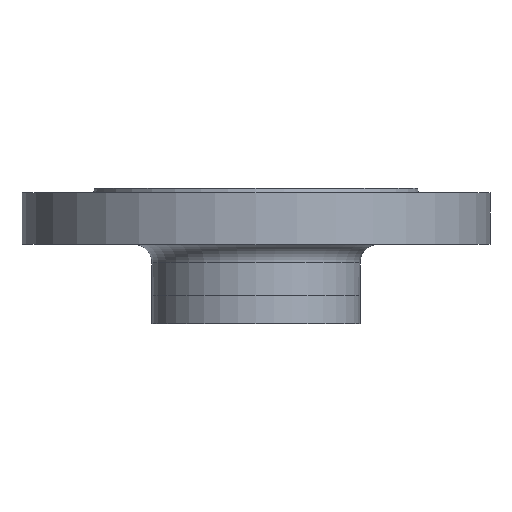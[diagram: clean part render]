
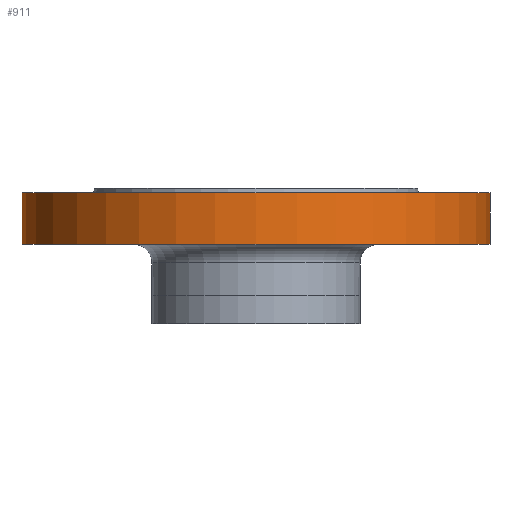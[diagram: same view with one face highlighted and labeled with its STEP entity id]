
A CAD part, front view. The second image highlights one B-rep face of the part: STEP entity #911.
In plain terms, the highlighted cylindrical face has radius 100 mm (diameter 200 mm), a partial arc.
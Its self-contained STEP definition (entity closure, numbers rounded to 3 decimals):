
#41 = CARTESIAN_POINT ( 'NONE',  ( 100., 0., -2. ) ) ;
#50 = CARTESIAN_POINT ( 'NONE',  ( 100., 0., -24. ) ) ;
#60 = CARTESIAN_POINT ( 'NONE',  ( -100., 0., -24. ) ) ;
#164 = DIRECTION ( 'NONE',  ( -1., 0., 0. ) ) ;
#166 = CARTESIAN_POINT ( 'NONE',  ( -100., 0., -2. ) ) ;
#168 = CARTESIAN_POINT ( 'NONE',  ( 0., 0., -24. ) ) ;
#170 = DIRECTION ( 'NONE',  ( 0., 0., -1. ) ) ;
#243 = DIRECTION ( 'NONE',  ( 1., 0., 0. ) ) ;
#244 = DIRECTION ( 'NONE',  ( 0., 0., 1. ) ) ;
#246 = CARTESIAN_POINT ( 'NONE',  ( 0., 0., -68. ) ) ;
#247 = CYLINDRICAL_SURFACE ( 'NONE', #872, 100. ) ;
#248 = FACE_OUTER_BOUND ( 'NONE', #1131, .T. ) ;
#401 = DIRECTION ( 'NONE',  ( 0., 0., 1. ) ) ;
#402 = CARTESIAN_POINT ( 'NONE',  ( 100., 0., -68. ) ) ;
#403 = LINE ( 'NONE', #402, #914 ) ;
#449 = EDGE_CURVE ( 'NONE', #1133, #1054, #546, .T. ) ;
#464 = EDGE_CURVE ( 'NONE', #1143, #1054, #947, .T. ) ;
#503 = VECTOR ( 'NONE', #543, 1000. ) ;
#537 = DIRECTION ( 'NONE',  ( -1., 0., 0. ) ) ;
#538 = DIRECTION ( 'NONE',  ( 0., 0., -1. ) ) ;
#539 = CARTESIAN_POINT ( 'NONE',  ( 0., 0., -2. ) ) ;
#543 = DIRECTION ( 'NONE',  ( 0., 0., 1. ) ) ;
#545 = CARTESIAN_POINT ( 'NONE',  ( -100., 0., -68. ) ) ;
#546 = LINE ( 'NONE', #545, #503 ) ;
#661 = CIRCLE ( 'NONE', #663, 100. ) ;
#663 = AXIS2_PLACEMENT_3D ( 'NONE', #168, #170, #164 ) ;
#807 = EDGE_CURVE ( 'NONE', #1140, #1143, #403, .T. ) ;
#872 = AXIS2_PLACEMENT_3D ( 'NONE', #246, #244, #243 ) ;
#911 = ADVANCED_FACE ( 'NONE', ( #248 ), #247, .T. ) ;
#914 = VECTOR ( 'NONE', #401, 1000. ) ;
#943 = AXIS2_PLACEMENT_3D ( 'NONE', #539, #538, #537 ) ;
#947 = CIRCLE ( 'NONE', #943, 100. ) ;
#1052 = EDGE_CURVE ( 'NONE', #1140, #1133, #661, .T. ) ;
#1054 = VERTEX_POINT ( 'NONE', #166 ) ;
#1131 = EDGE_LOOP ( 'NONE', ( #1261, #1262, #1263, #1264 ) ) ;
#1133 = VERTEX_POINT ( 'NONE', #60 ) ;
#1140 = VERTEX_POINT ( 'NONE', #50 ) ;
#1143 = VERTEX_POINT ( 'NONE', #41 ) ;
#1261 = ORIENTED_EDGE ( 'NONE', *, *, #449, .F. ) ;
#1262 = ORIENTED_EDGE ( 'NONE', *, *, #1052, .F. ) ;
#1263 = ORIENTED_EDGE ( 'NONE', *, *, #807, .T. ) ;
#1264 = ORIENTED_EDGE ( 'NONE', *, *, #464, .T. ) ;
